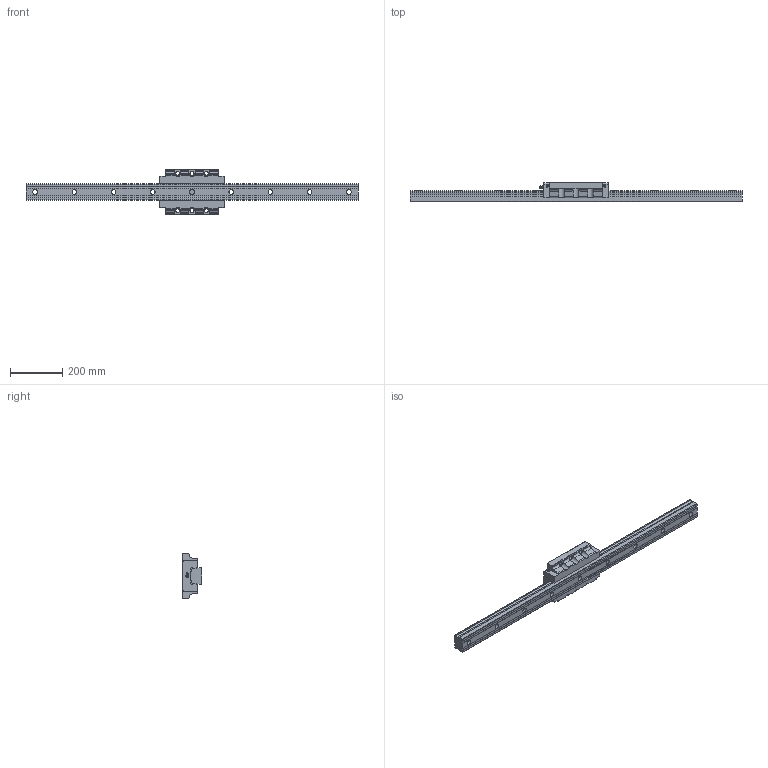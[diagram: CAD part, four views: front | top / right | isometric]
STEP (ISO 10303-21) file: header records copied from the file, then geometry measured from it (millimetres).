
FILE_DESCRIPTION(/* description */ ('STEP AP203'),/* implementation_level */ '2;1');
FILE_NAME(/* name */ 'SVR65LC1SS-1270L_G35_0_B-PT18_512_0_0_0_1',/* time_stamp */ '2024-05-17T07:23:52+02:00',/* author */ ('License CC BY-ND 4.0'),/* organization */ ('CADENAS'),/* preprocessor_version */ 'ST-DEVELOPER v19.3',/* originating_system */ 'PARTsolutions',/* authorisation */ ' ');
FILE_SCHEMA (('CONFIG_CONTROL_DESIGN'));
Length unit declared in the file: millimetre
Products named in the file (4): SVR65LC1SS-1270L_G35_0_B-PT18_512_0_0_0_1; SVR 65LC127035 R Track; SVR 65LC1SSB-PT1/81 Slide; B-PT1/8_grease_nipple_joint1_SVR
Assembly tree (3 placements, depth 2):
  SVR65LC1SS-1270L_G35_0_B-PT18_512_0_0_0_1
    SVR 65LC127035 R Track
    SVR 65LC1SSB-PT1/81 Slide
    B-PT1/8_grease_nipple_joint1_SVR
Bounding box: 1270 x 75 x 170 mm (x, y, z)
Volume: 4717501.5 mm3; surface area: 452986.7 mm2
Topology: 3 solids, 3 shells, 254 faces, 678 edges, 445 vertices
Faces by surface type: plane 142, cylinder 83, cone 24, torus 3, sphere 2
Full cylindrical faces by diameter (mm): 8.2 x4, 9.6 x1, 14.5 x6, 18 x9, 26 x9
Entity records: 7792 total; most frequent: CARTESIAN_POINT 1505, DIRECTION 1272, ORIENTED_EDGE 1218, EDGE_CURVE 609, AXIS2_PLACEMENT_3D 456, VERTEX_POINT 436, LINE 360, VECTOR 360
